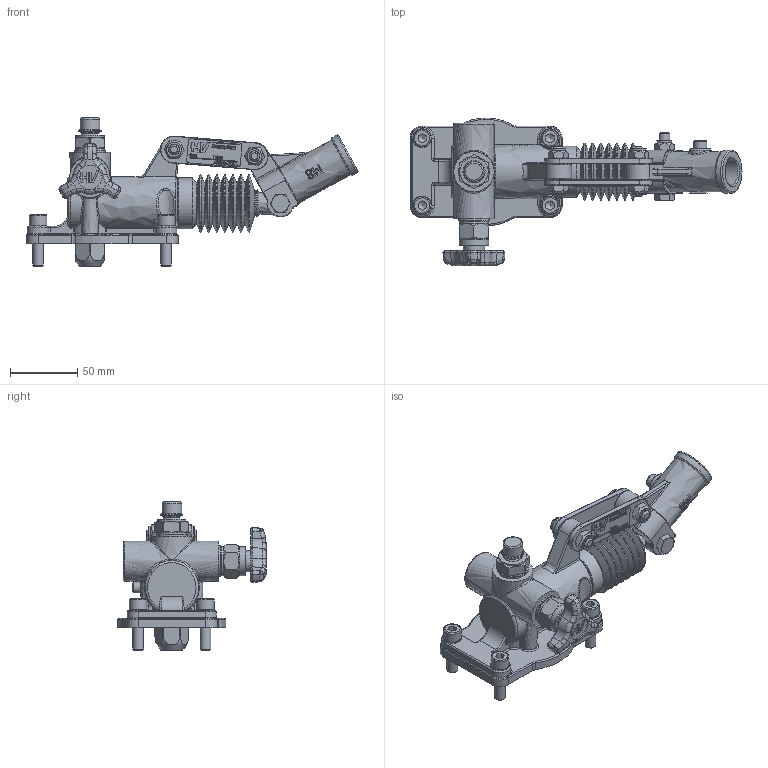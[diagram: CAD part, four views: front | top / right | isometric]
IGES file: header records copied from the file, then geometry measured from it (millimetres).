
Global section: file name: No Iges File Name specified; native system: Autodesk Inventor 2013; preprocessor: AutoDesk Inventor Iges Exporter R2013; author: christian.scardovi; date: 20240325.160729; units: millimetre
Bounding box: 246.62 x 109.99 x 110 mm (x, y, z)
Volume: 359840.7 mm3; surface area: 94631.6 mm2
Topology: 1 solids, 1 shells, 1587 faces, 3945 edges, 2429 vertices
Faces by surface type: bspline 1587
